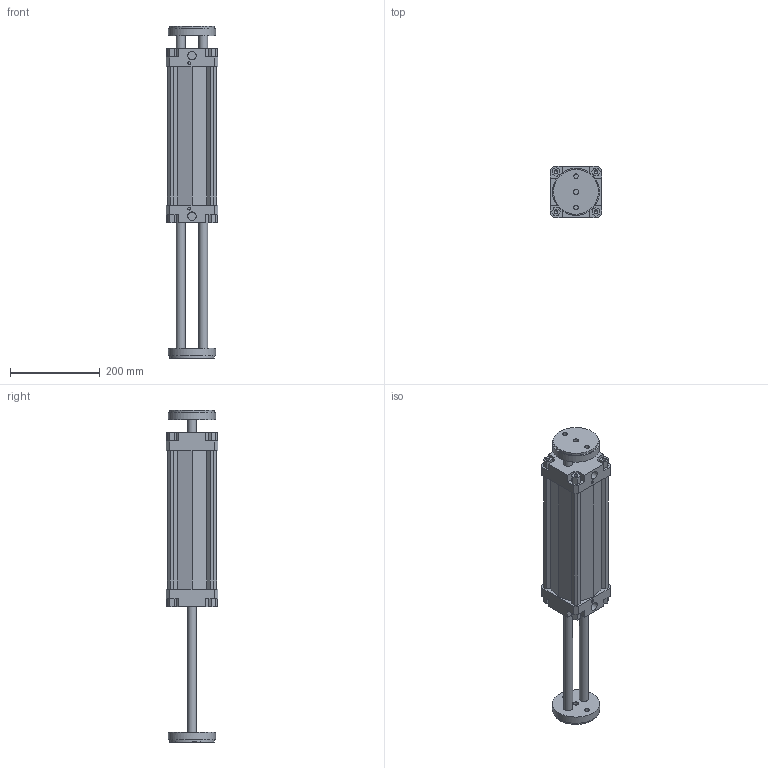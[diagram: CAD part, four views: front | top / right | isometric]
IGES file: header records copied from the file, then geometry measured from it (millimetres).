
Global section: file name: 132#_100_0250_06; native system: Autodesk Inventor 2014; preprocessor: unknown; author: A. Manieri; date: 20161006.163731; units: millimetre
Bounding box: 115 x 115 x 740 mm (x, y, z)
Volume: 2902799 mm3; surface area: 505090.5 mm2
Topology: 2 solids, 2 shells, 190 faces, 518 edges, 354 vertices
Faces by surface type: bspline 190
